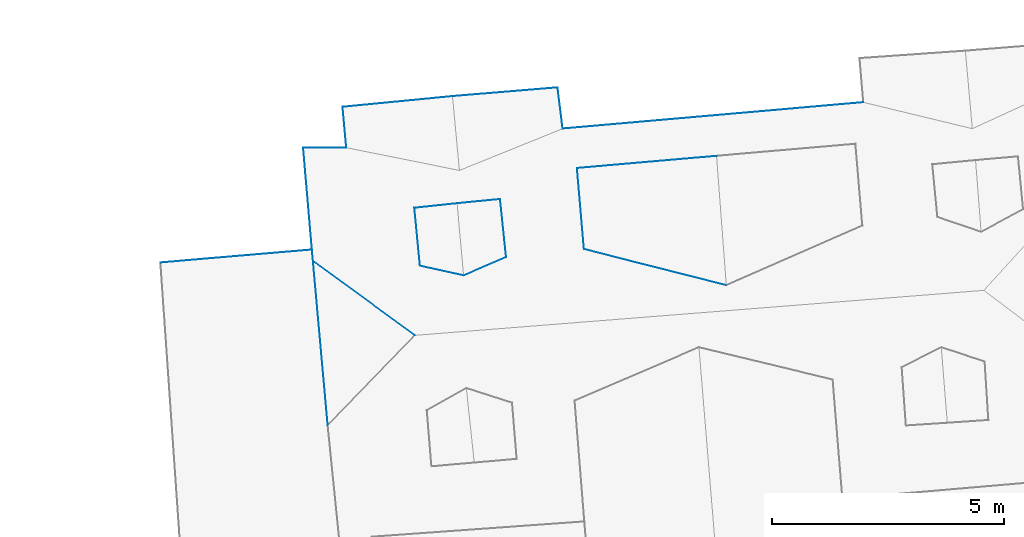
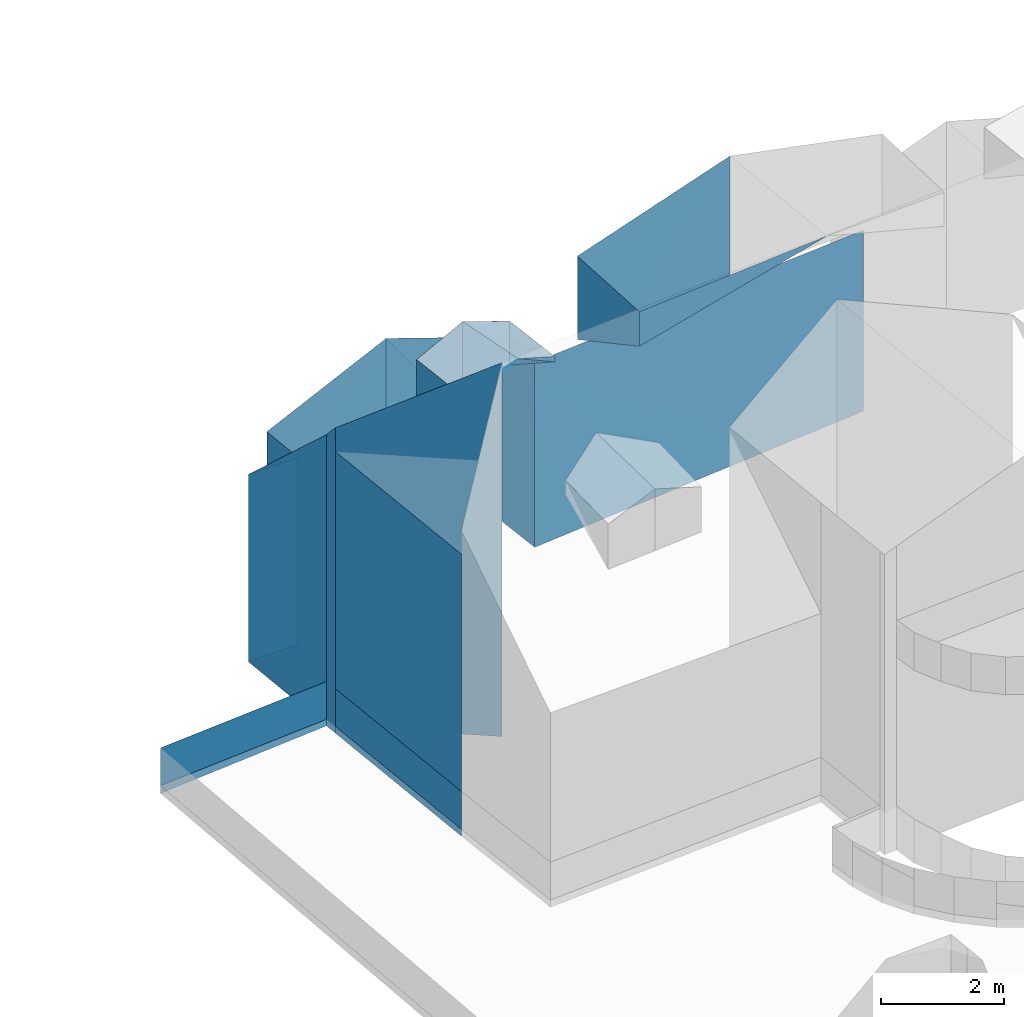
# Not in any storey, part 20 of 57: 24 walls.
"""IFC2X3 building model written with IfcOpenShell, lengths in metres."""

import ifcopenshell
import ifcopenshell.guid

model = None  # the IFC model being written
_history = None  # IfcOwnerHistory: only IFC2X3 demands one
_inside = {}  # id of a spatial element -> (the spatial element, [elements in it])
_under = {}  # id of a project, library or spatial element -> (it, [spatial elements below it])
_declared = {}  # id of a project -> (the project, [libraries it declares])
_typed = {}  # id of a type object -> (the type object, [elements of that type])
_made_of = {}  # id of a material, layer set ... -> (it, [elements and type objects made of it])


def new_model(schema):
    """Start an empty IFC model of exactly this schema.

    Asked for "IFC4X3", IfcOpenShell would pick the latest addendum, in which some entities
    have other attributes; the version numbers below select the first issue.
    IFC2X3 requires an IfcOwnerHistory on every rooted entity: one is made here for all.
    """
    global model, _history
    if schema == "IFC4X3":
        model = ifcopenshell.file(schema_version=(4, 3, 0, 0))
    else:
        model = ifcopenshell.file(schema=schema)
    _inside.clear()
    _under.clear()
    _declared.clear()
    _typed.clear()
    _made_of.clear()
    _history = None
    if model.schema == "IFC2X3":
        org = make("IfcOrganization", Name="unknown")
        user = make(
            "IfcPersonAndOrganization",
            ThePerson=make("IfcPerson", FamilyName="unknown"),
            TheOrganization=org,
        )
        app = make(
            "IfcApplication",
            ApplicationDeveloper=org,
            Version="unknown",
            ApplicationFullName="unknown",
            ApplicationIdentifier="unknown",
        )
        _history = make(
            "IfcOwnerHistory",
            OwningUser=user,
            OwningApplication=app,
            ChangeAction="ADDED",
            CreationDate=0,
        )
    return model


def make(cls, **values):
    """One entity of the class cls with the attributes given. An attribute that is None is left unset."""
    return model.create_entity(
        cls, **{name: value for name, value in values.items() if value is not None}
    )


def entity(cls, *values):
    """Any entity or typed value of the class cls, its attributes in the order of the schema. None: left unset."""
    e = model.create_entity(cls)
    for i, value in enumerate(values):
        if value is not None:
            e[i] = value
    return e


def rooted(cls, **values):
    """An entity with a GlobalId (a new one), such as an element, a storey or a relation."""
    return make(cls, GlobalId=ifcopenshell.guid.new(), OwnerHistory=_history, **values)


def si_unit(unit_type, name, prefix=None):
    """IfcSIUnit, for example si_unit("LENGTHUNIT", "METRE", prefix="MILLI")."""
    return make("IfcSIUnit", UnitType=unit_type, Prefix=prefix, Name=name)


def converted_unit(unit_type, name, factor, base, dimensions=None, offset=None):
    """IfcConversionBasedUnit, such as the inch: factor (a typed value) times the base unit."""
    return make(
        "IfcConversionBasedUnit"
        if offset is None
        else "IfcConversionBasedUnitWithOffset",
        ConversionOffset=offset,
        Dimensions=None
        if dimensions is None
        else entity("IfcDimensionalExponents", *dimensions),
        UnitType=unit_type,
        Name=name,
        ConversionFactor=make(
            "IfcMeasureWithUnit", ValueComponent=factor, UnitComponent=base
        ),
    )


def assignment(units):
    """IfcUnitAssignment: the units of a project."""
    return None if units is None else make("IfcUnitAssignment", Units=units)


def point(xyz):
    """IfcCartesianPoint."""
    return None if xyz is None else make("IfcCartesianPoint", Coordinates=xyz)


def direction(xyz):
    """IfcDirection."""
    return None if xyz is None else make("IfcDirection", DirectionRatios=xyz)


def frame(location, z_axis=None, x_axis=None):
    """IfcAxis2Placement3D, a coordinate frame: its origin and axes. An axis left out is left unset."""
    return make(
        "IfcAxis2Placement3D",
        Location=point(location),
        Axis=direction(z_axis),
        RefDirection=direction(x_axis),
    )


def origin():
    """The frame at (0, 0, 0) with its axes left unset."""
    return frame((0.0, 0.0, 0.0))


def place(relative_to, where):
    """IfcLocalPlacement: puts the frame where relative to a parent placement (None: the world)."""
    return make(
        "IfcLocalPlacement", PlacementRelTo=relative_to, RelativePlacement=where
    )


def context(
    kind, dimensions, precision=None, world=None, true_north=None, identifier=None
):
    """IfcGeometricRepresentationContext, for example the 3D "Model" context."""
    return make(
        "IfcGeometricRepresentationContext",
        ContextIdentifier=identifier,
        ContextType=kind,
        CoordinateSpaceDimension=dimensions,
        Precision=precision,
        WorldCoordinateSystem=world,
        TrueNorth=true_north,
    )


def subcontext(parent, identifier, kind, view, scale=None):
    """IfcGeometricRepresentationSubContext, for example "Body" below "Model"."""
    return make(
        "IfcGeometricRepresentationSubContext",
        ContextIdentifier=identifier,
        ContextType=kind,
        ParentContext=parent,
        TargetScale=scale,
        TargetView=view,
    )


def project(units=None, contexts=None):
    """IfcProject with its units and contexts."""
    return rooted(
        "IfcProject",
        Name="project",
        RepresentationContexts=contexts,
        UnitsInContext=assignment(units),
    )


def spatial(cls, under=None, at=None, **own):
    """A site, building, storey or space (cls), placed at a placement, below another one or the project."""
    s = rooted(cls, ObjectPlacement=at, **own)
    if under is not None:
        _under.setdefault(under.id(), (under, []))[1].append(s)
    return s


def faces_of(points, faces, orient=None, outer=None):
    """IfcFace entities. A face is a list of loops; a loop is a list of indices into points, from 0.

    orient and outer hold one flag for each loop. By default every Orientation is true, the
    first loop of a face is its IfcFaceOuterBound and the others are IfcFaceBound.
    """
    made = []
    for i, loops in enumerate(faces):
        bounds = []
        for j, loop in enumerate(loops):
            is_outer = j == 0 if outer is None else outer[i][j]
            bounds.append(
                make(
                    "IfcFaceOuterBound" if is_outer else "IfcFaceBound",
                    Bound=make("IfcPolyLoop", Polygon=[points[k] for k in loop]),
                    Orientation=True if orient is None else orient[i][j],
                )
            )
        made.append(make("IfcFace", Bounds=bounds))
    return made


def face_set(faces, orient=None, outer=None):
    """The faces of one IfcConnectedFaceSet. surface_model builds it on its shared points."""
    return ("IfcConnectedFaceSet", faces, orient, outer)


def surface_model(cls, points, shells):
    """IfcFaceBasedSurfaceModel or IfcShellBasedSurfaceModel (cls): surfaces that need not close."""
    shared = [point(p) for p in points]
    made = [make(c, CfsFaces=faces_of(shared, fs, o, b)) for c, fs, o, b in shells]
    if cls == "IfcFaceBasedSurfaceModel":
        return make(cls, FbsmFaces=made)
    return make(cls, SbsmBoundary=made)


def shape(context_of_items, identifier, shape_type, items):
    """IfcShapeRepresentation: the items that make up one representation, for example the "Body"."""
    return make(
        "IfcShapeRepresentation",
        ContextOfItems=context_of_items,
        RepresentationIdentifier=identifier,
        RepresentationType=shape_type,
        Items=items,
    )


def made_of(thing, what):
    """Note that an element or type object is made of a material, layer set ...; save() writes the relation."""
    if what is not None:
        _made_of.setdefault(what.id(), (what, []))[1].append(thing)
    return thing


def element(
    cls,
    number,
    at=None,
    inside=None,
    cuts=None,
    type_object=None,
    material=None,
    context=None,
    identifier="Body",
    shape_type=None,
    held_by="IfcProductDefinitionShape",
    body=None,
    shapes=None,
    **own,
):
    """One element of the class cls, such as IfcWall. Its Tag is "e" and its number.

    at: its placement. inside: the storey or other place that contains it. cuts: it is an
    opening in that element (IfcRelVoidsElement). A single representation is given by context,
    identifier, shape_type and body (its items); several are given by shapes. held_by: the class
    of the entity that holds the representations. save() writes the other relations.
    """
    e = rooted(cls, Tag="e%d" % number, ObjectPlacement=at, **own)
    if body is not None:
        shapes = [shape(context, identifier, shape_type, body)]
    if shapes is not None:
        e.Representation = make(held_by, Representations=shapes)
    if inside is not None:
        _inside.setdefault(inside.id(), (inside, []))[1].append(e)
    if cuts is not None:
        rooted(
            "IfcRelVoidsElement", RelatingBuildingElement=cuts, RelatedOpeningElement=e
        )
    if type_object is not None:
        _typed.setdefault(type_object.id(), (type_object, []))[1].append(e)
    return made_of(e, material)


def aggregate(whole, parts):
    """IfcRelAggregates: a whole, such as a stair, and the parts it consists of."""
    return rooted("IfcRelAggregates", RelatingObject=whole, RelatedObjects=parts)


def save(model, path):
    """Write the relations noted so far, then the file.

    IfcRelAggregates (storeys below a building ...), IfcRelContainedInSpatialStructure (elements
    in a storey), IfcRelDefinesByType, IfcRelAssociatesMaterial and IfcRelDeclares: one each for
    every whole, place, type object, material and project.
    """
    for whole, parts in _under.values():
        aggregate(whole, parts)
    for where, things in _inside.values():
        rooted(
            "IfcRelContainedInSpatialStructure",
            RelatedElements=things,
            RelatingStructure=where,
        )
    for kind, things in _typed.values():
        rooted("IfcRelDefinesByType", RelatedObjects=things, RelatingType=kind)
    for what, things in _made_of.values():
        rooted("IfcRelAssociatesMaterial", RelatedObjects=things, RelatingMaterial=what)
    for by, libraries in _declared.values():
        rooted("IfcRelDeclares", RelatingContext=by, RelatedDefinitions=libraries)
    model.write(path)


model = new_model("IFC2X3")

# Units and contexts
model_context = context("Model", 3, precision=1e-05, world=origin())
body_context = subcontext(model_context, "Body", "Model", "MODEL_VIEW")
ifc_project = project(units=[converted_unit("PLANEANGLEUNIT", "DEGREE", entity("IfcRatioMeasure", 0.0174532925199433), si_unit("PLANEANGLEUNIT", "RADIAN"), dimensions=[0, 0, 0, 0, 0, 0, 0]), si_unit("AREAUNIT", "SQUARE_METRE"), si_unit("LENGTHUNIT", "METRE")], contexts=[model_context])

# Site, building
site_placement = place(None, origin())
site = spatial("IfcSite", under=ifc_project, at=site_placement, Name="_site", CompositionType="ELEMENT")
building_placement = place(site_placement, origin())
building = spatial("IfcBuilding", under=site, at=building_placement, Name="_building", CompositionType="ELEMENT")

# Walls
wall_1_placement = place(building_placement, origin())
element("IfcWall", 1, at=wall_1_placement, inside=building, Name="Wall", context=body_context, shape_type="SurfaceModel", body=[
    surface_model("IfcFaceBasedSurfaceModel", [(238.02, 98.92, 233.075), (234.95, 99.699, 232.174), (234.95, 99.699, 231.492)], [face_set([[[0, 1, 2]]])]),
])
wall_2_placement = place(building_placement, origin())
element("IfcWall", 2, at=wall_2_placement, inside=building, Name="Wall", context=body_context, shape_type="SurfaceModel", body=[
    surface_model("IfcFaceBasedSurfaceModel", [(232.35, 99.131, 232.5), (231.41, 99.34, 231.98), (231.41, 99.34, 231.909)], [face_set([[[0, 1, 2]]])]),
])
wall_3_placement = place(building_placement, origin())
element("IfcWall", 3, at=wall_3_placement, inside=building, Name="Wall", context=body_context, shape_type="SurfaceModel", body=[
    surface_model("IfcFaceBasedSurfaceModel", [(233.27, 99.529, 231.98), (232.35, 99.131, 232.5), (233.27, 99.529, 231.877)], [face_set([[[0, 1, 2]]])]),
])
wall_4_placement = place(building_placement, origin())
element("IfcWall", 4, at=wall_4_placement, inside=building, Name="Wall", context=body_context, shape_type="SurfaceModel", body=[
    surface_model("IfcFaceBasedSurfaceModel", [(234.8, 101.449, 232.27), (237.81, 101.711, 233.04), (237.81, 101.711, 230.587), (234.8, 101.449, 230.615)], [face_set([[[0, 1, 2, 3]]])]),
])
wall_5_placement = place(building_placement, origin())
element("IfcWall", 5, at=wall_5_placement, inside=building, Name="Wall", context=body_context, shape_type="SurfaceModel", body=[
    surface_model("IfcFaceBasedSurfaceModel", [(231.29, 100.59, 231.97), (232.21, 100.689, 232.34), (232.21, 100.689, 231.112), (231.29, 100.59, 231.137)], [face_set([[[0, 1, 2, 3]]])]),
])
wall_6_placement = place(building_placement, origin())
element("IfcWall", 6, at=wall_6_placement, inside=building, Name="Wall", context=body_context, shape_type="SurfaceModel", body=[
    surface_model("IfcFaceBasedSurfaceModel", [(232.21, 100.689, 232.34), (233.14, 100.779, 231.97), (233.14, 100.779, 231.096), (232.21, 100.689, 231.112)], [face_set([[[0, 1, 2, 3]]])]),
])
wall_7_placement = place(building_placement, origin())
element("IfcWall", 7, at=wall_7_placement, inside=building, Name="Wall", context=body_context, shape_type="SurfaceModel", body=[
    surface_model("IfcFaceBasedSurfaceModel", [(231.41, 99.34, 231.98), (231.29, 100.59, 231.97), (231.29, 100.59, 231.137), (231.41, 99.34, 231.909)], [face_set([[[0, 1, 2, 3]]])]),
])
wall_8_placement = place(building_placement, origin())
element("IfcWall", 8, at=wall_8_placement, inside=building, Name="Wall", context=body_context, shape_type="SurfaceModel", body=[
    surface_model("IfcFaceBasedSurfaceModel", [(233.14, 100.779, 231.97), (233.27, 99.529, 231.98), (233.27, 99.529, 231.877), (233.14, 100.779, 231.096)], [face_set([[[0, 1, 2, 3]]])]),
])
wall_9_placement = place(building_placement, origin())
element("IfcWall", 9, at=wall_9_placement, inside=building, Name="Wall", context=body_context, shape_type="SurfaceModel", body=[
    surface_model("IfcFaceBasedSurfaceModel", [(234.95, 99.699, 232.174), (234.8, 101.449, 232.27), (234.8, 101.449, 230.615), (234.95, 99.699, 231.492)], [face_set([[[0, 1, 2, 3]]])]),
])
wall_10_placement = place(building_placement, origin())
element("IfcWall", 10, at=wall_10_placement, inside=building, Name="Wall", context=body_context, shape_type="SurfaceModel", body=[
    surface_model("IfcFaceBasedSurfaceModel", [(231.3, 97.84, 233.57), (229.102, 99.438, 232.08), (229.102, 99.438, 226.163), (231.3, 97.84, 226.163)], [face_set([[[0, 1, 2, 3]]])]),
])
wall_11_placement = place(building_placement, origin())
element("IfcWall", 11, at=wall_11_placement, inside=building, Name="Wall", context=body_context, shape_type="SurfaceModel", body=[
    surface_model("IfcFaceBasedSurfaceModel", [(229.102, 99.438, 232.08), (229.079, 99.689, 231.802), (229.079, 99.689, 226.03), (229.102, 99.438, 226.03)], [face_set([[[0, 1, 2, 3]]])]),
])
wall_12_placement = place(building_placement, origin())
element("IfcWall", 12, at=wall_12_placement, inside=building, Name="Wall", context=body_context, shape_type="SurfaceModel", body=[
    surface_model("IfcFaceBasedSurfaceModel", [(229.079, 99.689, 231.802), (228.89, 101.891, 229.746), (228.89, 101.891, 226.031), (229.079, 99.689, 226.03)], [face_set([[[0, 1, 2, 3]]])]),
])
wall_13_placement = place(building_placement, origin())
element("IfcWall", 13, at=wall_13_placement, inside=building, Name="Wall", context=body_context, shape_type="SurfaceModel", body=[
    surface_model("IfcFaceBasedSurfaceModel", [(229.42, 95.902, 231.612), (229.102, 99.438, 231.612), (229.102, 99.438, 226.03), (229.42, 95.902, 226.024)], [face_set([[[0, 1, 2, 3]]])]),
])
wall_14_placement = place(building_placement, origin())
element("IfcWall", 14, at=wall_14_placement, inside=building, Name="Wall", context=body_context, shape_type="SurfaceModel", body=[
    surface_model("IfcFaceBasedSurfaceModel", [(232.11, 103.0, 230.64), (234.38, 103.189, 229.76), (234.38, 103.189, 226.112), (232.11, 103.0, 226.082)], [face_set([[[0, 1, 2, 3]]])]),
])
wall_15_placement = place(building_placement, origin())
element("IfcWall", 15, at=wall_15_placement, inside=building, Name="Wall", context=body_context, shape_type="SurfaceModel", body=[
    surface_model("IfcFaceBasedSurfaceModel", [(229.74, 102.77, 229.76), (232.11, 103.0, 230.64), (232.11, 103.0, 226.082), (229.74, 102.77, 226.052)], [face_set([[[0, 1, 2, 3]]])]),
])
wall_16_placement = place(building_placement, origin())
element("IfcWall", 16, at=wall_16_placement, inside=building, Name="Wall", context=body_context, shape_type="SurfaceModel", body=[
    surface_model("IfcFaceBasedSurfaceModel", [(234.49, 102.301, 229.76), (240.98, 102.869, 229.76), (240.98, 102.869, 226.174), (234.49, 102.301, 226.089)], [face_set([[[0, 1, 2, 3]]])]),
])
wall_17_placement = place(building_placement, origin())
element("IfcWall", 17, at=wall_17_placement, inside=building, Name="Wall", context=body_context, shape_type="SurfaceModel", body=[
    surface_model("IfcFaceBasedSurfaceModel", [(234.38, 103.189, 229.76), (234.49, 102.301, 229.76), (234.49, 102.301, 226.089), (234.38, 103.189, 226.112)], [face_set([[[0, 1, 2, 3]]])]),
])
wall_18_placement = place(building_placement, origin())
element("IfcWall", 18, at=wall_18_placement, inside=building, Name="Wall", context=body_context, shape_type="SurfaceModel", body=[
    surface_model("IfcFaceBasedSurfaceModel", [(229.82, 101.891, 229.76), (229.74, 102.77, 229.76), (229.74, 102.77, 226.052), (229.82, 101.891, 226.037)], [face_set([[[0, 1, 2, 3]]])]),
])
wall_19_placement = place(building_placement, origin())
element("IfcWall", 19, at=wall_19_placement, inside=building, Name="Wall", context=body_context, shape_type="SurfaceModel", body=[
    surface_model("IfcFaceBasedSurfaceModel", [(228.89, 101.891, 229.746), (229.82, 101.891, 229.76), (229.82, 101.891, 226.037), (228.89, 101.891, 226.031)], [face_set([[[0, 1, 2, 3]]])]),
])
for number, where, name in (
    (20, (0.0, 0.0, 0.0), "Wall"),
    (21, (0.0, 0.0, 0.0), "Wall"),
):
    element("IfcWall", number, at=place(building_placement, frame(where)), inside=building, Name=name, context=body_context, shape_type="SurfaceModel", body=[
        surface_model("IfcFaceBasedSurfaceModel", [(229.42, 95.902, 226.163), (229.102, 99.438, 226.163), (229.102, 99.438, 226.913), (229.42, 95.902, 226.913)], [face_set([[[0, 1, 2, 3]]])]),
    ])
for number, where, name in (
    (22, (0.0, 0.0, 0.0), "Wall"),
    (23, (0.0, 0.0, 0.0), "Wall"),
):
    element("IfcWall", number, at=place(building_placement, frame(where)), inside=building, Name=name, context=body_context, shape_type="SurfaceModel", body=[
        surface_model("IfcFaceBasedSurfaceModel", [(225.81, 99.41, 226.16), (229.079, 99.689, 226.16), (229.079, 99.689, 226.91), (225.81, 99.41, 226.91)], [face_set([[[0, 1, 2, 3]]])]),
    ])
wall_20_placement = place(building_placement, origin())
element("IfcWall", 24, at=wall_20_placement, inside=building, Name="Wall", context=body_context, shape_type="SurfaceModel", body=[
    surface_model("IfcFaceBasedSurfaceModel", [(225.81, 99.41, 226.16), (229.079, 99.689, 226.16), (229.079, 99.689, 226.03), (225.81, 99.41, 226.008)], [face_set([[[0, 1, 2, 3]]])]),
])

save(model, "model.ifc")
